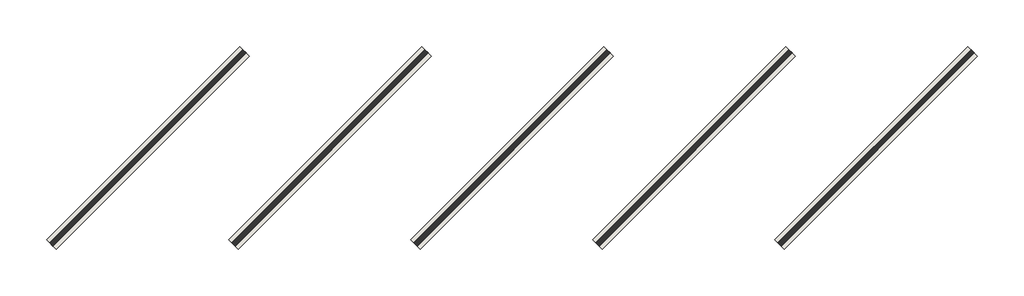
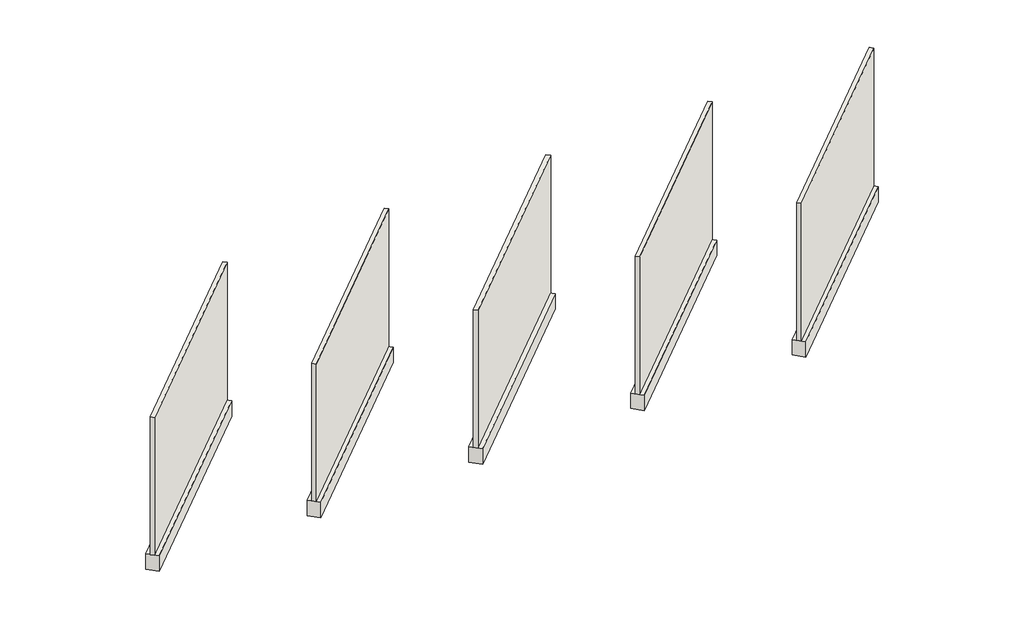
# One storey: 10 walls.
"""IFC4 building model written with IfcOpenShell, lengths in millimetres."""

import ifcopenshell
import ifcopenshell.guid

model = None  # the IFC model being written
_history = None  # IfcOwnerHistory: only IFC2X3 demands one
_inside = {}  # id of a spatial element -> (the spatial element, [elements in it])
_under = {}  # id of a project, library or spatial element -> (it, [spatial elements below it])
_declared = {}  # id of a project -> (the project, [libraries it declares])
_typed = {}  # id of a type object -> (the type object, [elements of that type])
_made_of = {}  # id of a material, layer set ... -> (it, [elements and type objects made of it])


def new_model(schema):
    """Start an empty IFC model of exactly this schema.

    Asked for "IFC4X3", IfcOpenShell would pick the latest addendum, in which some entities
    have other attributes; the version numbers below select the first issue.
    IFC2X3 requires an IfcOwnerHistory on every rooted entity: one is made here for all.
    """
    global model, _history
    if schema == "IFC4X3":
        model = ifcopenshell.file(schema_version=(4, 3, 0, 0))
    else:
        model = ifcopenshell.file(schema=schema)
    _inside.clear()
    _under.clear()
    _declared.clear()
    _typed.clear()
    _made_of.clear()
    _history = None
    if model.schema == "IFC2X3":
        org = make("IfcOrganization", Name="unknown")
        user = make(
            "IfcPersonAndOrganization",
            ThePerson=make("IfcPerson", FamilyName="unknown"),
            TheOrganization=org,
        )
        app = make(
            "IfcApplication",
            ApplicationDeveloper=org,
            Version="unknown",
            ApplicationFullName="unknown",
            ApplicationIdentifier="unknown",
        )
        _history = make(
            "IfcOwnerHistory",
            OwningUser=user,
            OwningApplication=app,
            ChangeAction="ADDED",
            CreationDate=0,
        )
    return model


def make(cls, **values):
    """One entity of the class cls with the attributes given. An attribute that is None is left unset."""
    return model.create_entity(
        cls, **{name: value for name, value in values.items() if value is not None}
    )


def rooted(cls, **values):
    """An entity with a GlobalId (a new one), such as an element, a storey or a relation."""
    return make(cls, GlobalId=ifcopenshell.guid.new(), OwnerHistory=_history, **values)


def si_unit(unit_type, name, prefix=None):
    """IfcSIUnit, for example si_unit("LENGTHUNIT", "METRE", prefix="MILLI")."""
    return make("IfcSIUnit", UnitType=unit_type, Prefix=prefix, Name=name)


def assignment(units):
    """IfcUnitAssignment: the units of a project."""
    return None if units is None else make("IfcUnitAssignment", Units=units)


def point(xyz):
    """IfcCartesianPoint."""
    return None if xyz is None else make("IfcCartesianPoint", Coordinates=xyz)


def direction(xyz):
    """IfcDirection."""
    return None if xyz is None else make("IfcDirection", DirectionRatios=xyz)


def frame(location, z_axis=None, x_axis=None):
    """IfcAxis2Placement3D, a coordinate frame: its origin and axes. An axis left out is left unset."""
    return make(
        "IfcAxis2Placement3D",
        Location=point(location),
        Axis=direction(z_axis),
        RefDirection=direction(x_axis),
    )


def origin():
    """The frame at (0, 0, 0) with its axes left unset."""
    return frame((0.0, 0.0, 0.0))


def origin_with_axes():
    """The frame at (0, 0, 0) with the z axis (0, 0, 1) and the x axis (1, 0, 0) written out."""
    return frame((0.0, 0.0, 0.0), z_axis=(0.0, 0.0, 1.0), x_axis=(1.0, 0.0, 0.0))


def place(relative_to, where):
    """IfcLocalPlacement: puts the frame where relative to a parent placement (None: the world)."""
    return make(
        "IfcLocalPlacement", PlacementRelTo=relative_to, RelativePlacement=where
    )


def context(
    kind, dimensions, precision=None, world=None, true_north=None, identifier=None
):
    """IfcGeometricRepresentationContext, for example the 3D "Model" context."""
    return make(
        "IfcGeometricRepresentationContext",
        ContextIdentifier=identifier,
        ContextType=kind,
        CoordinateSpaceDimension=dimensions,
        Precision=precision,
        WorldCoordinateSystem=world,
        TrueNorth=true_north,
    )


def project(units=None, contexts=None):
    """IfcProject with its units and contexts."""
    return rooted(
        "IfcProject",
        Name="project",
        RepresentationContexts=contexts,
        UnitsInContext=assignment(units),
    )


def spatial(cls, under=None, at=None, **own):
    """A site, building, storey or space (cls), placed at a placement, below another one or the project."""
    s = rooted(cls, ObjectPlacement=at, **own)
    if under is not None:
        _under.setdefault(under.id(), (under, []))[1].append(s)
    return s


def polyline(points):
    """IfcPolyline through the points."""
    return make("IfcPolyline", Points=[point(p) for p in points])


def outline(outer, holes=None, kind="AREA"):
    """IfcArbitraryClosedProfileDef: a profile drawn as a closed curve; with holes, ...WithVoids."""
    if holes is None:
        return make("IfcArbitraryClosedProfileDef", ProfileType=kind, OuterCurve=outer)
    return make(
        "IfcArbitraryProfileDefWithVoids",
        ProfileType=kind,
        OuterCurve=outer,
        InnerCurves=holes,
    )


def extrude(swept, where, along, depth):
    """IfcExtrudedAreaSolid: the profile swept, set in the frame where, extruded along a direction by depth."""
    return make(
        "IfcExtrudedAreaSolid",
        SweptArea=swept,
        Position=where,
        ExtrudedDirection=direction(along),
        Depth=depth,
    )


def shape(context_of_items, identifier, shape_type, items):
    """IfcShapeRepresentation: the items that make up one representation, for example the "Body"."""
    return make(
        "IfcShapeRepresentation",
        ContextOfItems=context_of_items,
        RepresentationIdentifier=identifier,
        RepresentationType=shape_type,
        Items=items,
    )


def made_of(thing, what):
    """Note that an element or type object is made of a material, layer set ...; save() writes the relation."""
    if what is not None:
        _made_of.setdefault(what.id(), (what, []))[1].append(thing)
    return thing


def element(
    cls,
    number,
    at=None,
    inside=None,
    cuts=None,
    type_object=None,
    material=None,
    context=None,
    identifier="Body",
    shape_type=None,
    held_by="IfcProductDefinitionShape",
    body=None,
    shapes=None,
    **own,
):
    """One element of the class cls, such as IfcWall. Its Tag is "e" and its number.

    at: its placement. inside: the storey or other place that contains it. cuts: it is an
    opening in that element (IfcRelVoidsElement). A single representation is given by context,
    identifier, shape_type and body (its items); several are given by shapes. held_by: the class
    of the entity that holds the representations. save() writes the other relations.
    """
    e = rooted(cls, Tag="e%d" % number, ObjectPlacement=at, **own)
    if body is not None:
        shapes = [shape(context, identifier, shape_type, body)]
    if shapes is not None:
        e.Representation = make(held_by, Representations=shapes)
    if inside is not None:
        _inside.setdefault(inside.id(), (inside, []))[1].append(e)
    if cuts is not None:
        rooted(
            "IfcRelVoidsElement", RelatingBuildingElement=cuts, RelatedOpeningElement=e
        )
    if type_object is not None:
        _typed.setdefault(type_object.id(), (type_object, []))[1].append(e)
    return made_of(e, material)


def aggregate(whole, parts):
    """IfcRelAggregates: a whole, such as a stair, and the parts it consists of."""
    return rooted("IfcRelAggregates", RelatingObject=whole, RelatedObjects=parts)


def save(model, path):
    """Write the relations noted so far, then the file.

    IfcRelAggregates (storeys below a building ...), IfcRelContainedInSpatialStructure (elements
    in a storey), IfcRelDefinesByType, IfcRelAssociatesMaterial and IfcRelDeclares: one each for
    every whole, place, type object, material and project.
    """
    for whole, parts in _under.values():
        aggregate(whole, parts)
    for where, things in _inside.values():
        rooted(
            "IfcRelContainedInSpatialStructure",
            RelatedElements=things,
            RelatingStructure=where,
        )
    for kind, things in _typed.values():
        rooted("IfcRelDefinesByType", RelatedObjects=things, RelatingType=kind)
    for what, things in _made_of.values():
        rooted("IfcRelAssociatesMaterial", RelatedObjects=things, RelatingMaterial=what)
    for by, libraries in _declared.values():
        rooted("IfcRelDeclares", RelatingContext=by, RelatedDefinitions=libraries)
    model.write(path)


model = new_model("IFC4")

# Units and contexts
model_context = context("Model", 3, world=origin())
ifc_project = project(units=[si_unit("LENGTHUNIT", "METRE", prefix="MILLI")], contexts=[model_context])

# Site, building, storey
site = spatial("IfcSite", under=ifc_project)
building = spatial("IfcBuilding", under=site)
storey = spatial("IfcBuildingStorey", under=building, Name="Ledge Pioneer Stone", Elevation=0.0)

# Walls
placement = place(None, origin())
element("IfcWall", 1, ObjectType="Flatwood_Ledge", at=placement, inside=storey, context=model_context, shape_type="SweptSolid", body=[
    extrude(outline(polyline([(-13723.4654192, 8506.1818358), (-16956.3576228, 5273.2896322), (-17010.2391595, 5327.1711689), (-13777.3469559, 8560.0633725), (-13723.4654192, 8506.1818358)])), frame((0.0, 0.0, 304.8), z_axis=(0.0, 0.0, 1.0), x_axis=(1.0, 0.0, 0.0)), (0.0, 0.0, 1.0), 2743.2),
])
element("IfcWall", 2, ObjectType="Nappanee_Ledge", at=placement, inside=storey, context=model_context, shape_type="SweptSolid", body=[
    extrude(outline(polyline([(-10675.4654192, 8506.1818358), (-13908.3576228, 5273.2896322), (-13962.2391595, 5327.1711689), (-10729.3469559, 8560.0633725), (-10675.4654192, 8506.1818358)])), frame((0.0, 0.0, 304.8), z_axis=(0.0, 0.0, 1.0), x_axis=(1.0, 0.0, 0.0)), (0.0, 0.0, 1.0), 2743.2),
])
element("IfcWall", 3, ObjectType="Canyon Creek_Ledge", at=placement, inside=storey, context=model_context, shape_type="SweptSolid", body=[
    extrude(outline(polyline([(-19819.4654192, 8506.1818358), (-23052.3576228, 5273.2896322), (-23106.2391595, 5327.1711689), (-19873.3469559, 8560.0633725), (-19819.4654192, 8506.1818358)])), frame((0.0, 0.0, 304.8), z_axis=(0.0, 0.0, 1.0), x_axis=(1.0, 0.0, 0.0)), (0.0, 0.0, 1.0), 2743.2),
])
element("IfcWall", 4, ObjectType="Dark Mist_Ledge", at=placement, inside=storey, context=model_context, shape_type="SweptSolid", body=[
    extrude(outline(polyline([(-16771.4654192, 8506.1818358), (-20004.3576228, 5273.2896322), (-20058.2391595, 5327.1711689), (-16825.3469559, 8560.0633725), (-16771.4654192, 8506.1818358)])), frame((0.0, 0.0, 304.8), z_axis=(0.0, 0.0, 1.0), x_axis=(1.0, 0.0, 0.0)), (0.0, 0.0, 1.0), 2743.2),
])
element("IfcWall", 5, ObjectType="Generic 9\"", at=placement, inside=storey, context=model_context, shape_type="SweptSolid", body=[
    extrude(outline(polyline([(-19765.5838825, 8452.3002991), (-22998.4760861, 5219.4080955), (-23160.1206962, 5381.0527057), (-19927.2284927, 8613.9449092), (-19765.5838825, 8452.3002991)])), origin_with_axes(), (0.0, 0.0, 1.0), 304.8),
])
element("IfcWall", 6, ObjectType="Generic 9\"", at=placement, inside=storey, context=model_context, shape_type="SweptSolid", body=[
    extrude(outline(polyline([(-16717.5838825, 8452.3002991), (-19950.4760861, 5219.4080955), (-20112.1206962, 5381.0527057), (-16879.2284927, 8613.9449092), (-16717.5838825, 8452.3002991)])), origin_with_axes(), (0.0, 0.0, 1.0), 304.8),
])
element("IfcWall", 7, ObjectType="Generic 9\"", at=placement, inside=storey, context=model_context, shape_type="SweptSolid", body=[
    extrude(outline(polyline([(-13669.5838825, 8452.3002991), (-16902.4760861, 5219.4080955), (-17064.1206962, 5381.0527057), (-13831.2284927, 8613.9449092), (-13669.5838825, 8452.3002991)])), origin_with_axes(), (0.0, 0.0, 1.0), 304.8),
])
element("IfcWall", 8, ObjectType="Generic 9\"", at=placement, inside=storey, context=model_context, shape_type="SweptSolid", body=[
    extrude(outline(polyline([(-10621.5838825, 8452.3002991), (-13854.4760861, 5219.4080955), (-14016.1206962, 5381.0527057), (-10783.2284927, 8613.9449092), (-10621.5838825, 8452.3002991)])), origin_with_axes(), (0.0, 0.0, 1.0), 304.8),
])
element("IfcWall", 9, ObjectType="Generic 9\"", at=placement, inside=storey, context=model_context, shape_type="SweptSolid", body=[
    extrude(outline(polyline([(-7573.5838825, 8452.3002991), (-10806.4760861, 5219.4080955), (-10968.1206962, 5381.0527057), (-7735.2284927, 8613.9449092), (-7573.5838825, 8452.3002991)])), origin_with_axes(), (0.0, 0.0, 1.0), 304.8),
])
element("IfcWall", 10, ObjectType="Slate_Ledge", at=placement, inside=storey, context=model_context, shape_type="SweptSolid", body=[
    extrude(outline(polyline([(-7627.4654192, 8506.1818358), (-10860.3576228, 5273.2896322), (-10914.2391595, 5327.1711689), (-7681.3469559, 8560.0633725), (-7627.4654192, 8506.1818358)])), frame((0.0, 0.0, 304.8), z_axis=(0.0, 0.0, 1.0), x_axis=(1.0, 0.0, 0.0)), (0.0, 0.0, 1.0), 2743.2),
])

save(model, "model.ifc")
